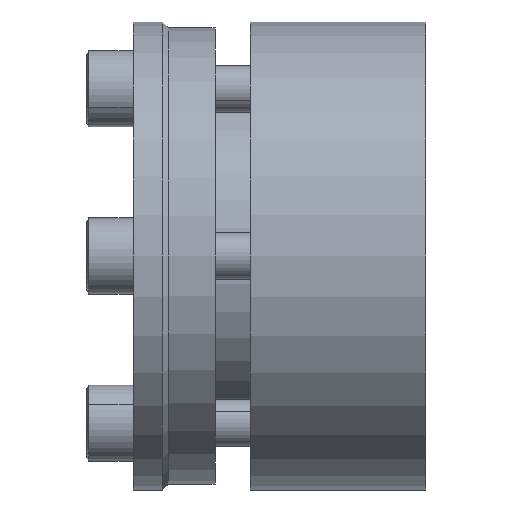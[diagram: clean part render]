
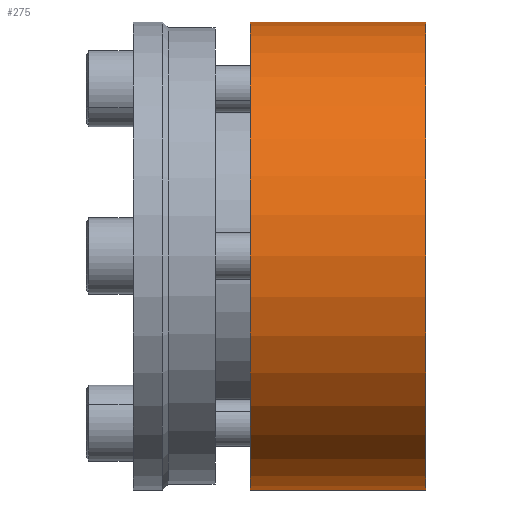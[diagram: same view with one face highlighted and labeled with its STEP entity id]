
A CAD part, front view. The second image highlights one B-rep face of the part: STEP entity #275.
In plain terms, the highlighted cylindrical face has radius 40 mm (diameter 80 mm), a partial arc.
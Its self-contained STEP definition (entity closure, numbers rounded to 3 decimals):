
#255 = VERTEX_POINT ( 'NONE', #1933 ) ;
#256 = VERTEX_POINT ( 'NONE', #1932 ) ;
#258 = EDGE_CURVE ( 'NONE', #256, #259, #1931, .T. ) ;
#259 = VERTEX_POINT ( 'NONE', #1927 ) ;
#262 = VERTEX_POINT ( 'NONE', #1926 ) ;
#264 = EDGE_CURVE ( 'NONE', #255, #262, #1987, .T. ) ;
#275 = ADVANCED_FACE ( 'NONE', ( #1958 ), #1956, .T. ) ;
#276 = EDGE_LOOP ( 'NONE', ( #277, #330, #331, #332 ) ) ;
#277 = ORIENTED_EDGE ( 'NONE', *, *, #258, .F. ) ;
#284 = EDGE_CURVE ( 'NONE', #256, #255, #2016, .T. ) ;
#330 = ORIENTED_EDGE ( 'NONE', *, *, #284, .T. ) ;
#331 = ORIENTED_EDGE ( 'NONE', *, *, #264, .T. ) ;
#332 = ORIENTED_EDGE ( 'NONE', *, *, #333, .F. ) ;
#333 = EDGE_CURVE ( 'NONE', #259, #262, #2079, .T. ) ;
#1926 = CARTESIAN_POINT ( 'NONE',  ( 20., 0., 40. ) ) ;
#1927 = CARTESIAN_POINT ( 'NONE',  ( 20., 0., -40. ) ) ;
#1928 = DIRECTION ( 'NONE',  ( -1., 0., 0. ) ) ;
#1929 = VECTOR ( 'NONE', #1928, 1000. ) ;
#1930 = CARTESIAN_POINT ( 'NONE',  ( 0., 0., -40. ) ) ;
#1931 = LINE ( 'NONE', #1930, #1929 ) ;
#1932 = CARTESIAN_POINT ( 'NONE',  ( 50., 0., -40. ) ) ;
#1933 = CARTESIAN_POINT ( 'NONE',  ( 50., 0., 40. ) ) ;
#1953 = DIRECTION ( 'NONE',  ( 0., 0., 1. ) ) ;
#1954 = DIRECTION ( 'NONE',  ( -1., 0., 0. ) ) ;
#1955 = AXIS2_PLACEMENT_3D ( 'NONE', #1957, #1954, #1953 ) ;
#1956 = CYLINDRICAL_SURFACE ( 'NONE', #1955, 40. ) ;
#1957 = CARTESIAN_POINT ( 'NONE',  ( 0., 0., 0. ) ) ;
#1958 = FACE_OUTER_BOUND ( 'NONE', #276, .T. ) ;
#1984 = DIRECTION ( 'NONE',  ( -1., 0., 0. ) ) ;
#1985 = VECTOR ( 'NONE', #1984, 1000. ) ;
#1986 = CARTESIAN_POINT ( 'NONE',  ( 0., 0., 40. ) ) ;
#1987 = LINE ( 'NONE', #1986, #1985 ) ;
#2012 = DIRECTION ( 'NONE',  ( 0., 0., 1. ) ) ;
#2013 = DIRECTION ( 'NONE',  ( -1., 0., 0. ) ) ;
#2014 = CARTESIAN_POINT ( 'NONE',  ( 50., 0., 0. ) ) ;
#2015 = AXIS2_PLACEMENT_3D ( 'NONE', #2014, #2013, #2012 ) ;
#2016 = CIRCLE ( 'NONE', #2015, 40. ) ;
#2075 = DIRECTION ( 'NONE',  ( 0., 0., 1. ) ) ;
#2076 = DIRECTION ( 'NONE',  ( -1., 0., 0. ) ) ;
#2077 = CARTESIAN_POINT ( 'NONE',  ( 20., 0., 0. ) ) ;
#2078 = AXIS2_PLACEMENT_3D ( 'NONE', #2077, #2076, #2075 ) ;
#2079 = CIRCLE ( 'NONE', #2078, 40. ) ;
